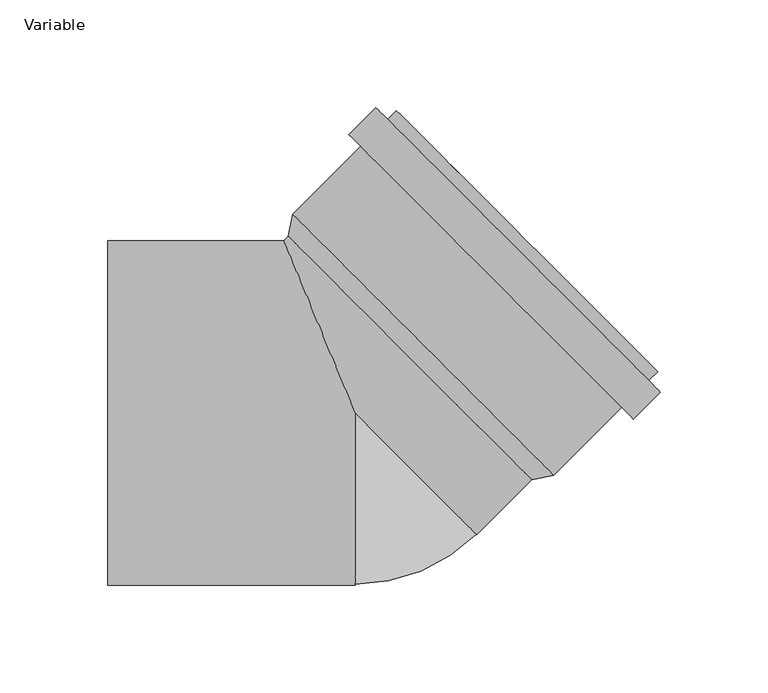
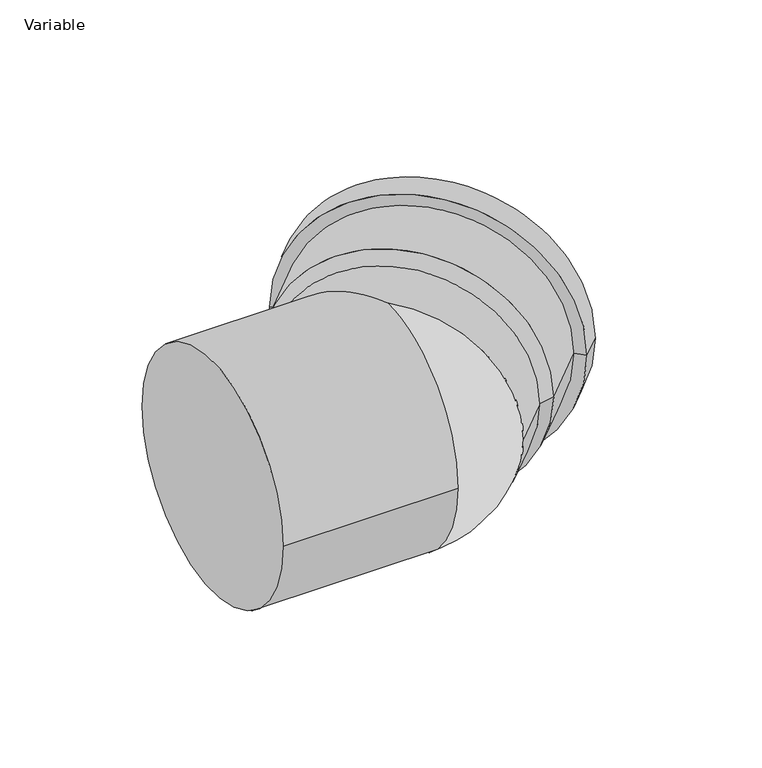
"""IFC4 building model written with IfcOpenShell, lengths in millimetres: pipe fitting geometry, AliaxisFR_Friaphon_ElbowMF_FR : Variable."""

from ifc_helpers import new_model, si_unit, point, frame, origin, place, context, project, spatial, polyline, circle_curve, ellipse_curve, trimmed, source, transform, mapped, element, save
from ifc_brep_helpers import plane_surface, cylinder_surface, revolved_surface, advanced_brep


def variable_feb31056(model_context):
    return source(origin(), model_context, "Body", "AdvancedBrep", [
        advanced_brep(
        [(140.5728281, 19.2333044, 0.0), (19.2333044, 140.5728281, 0.0), (23.3345238, 136.4716088, 0.0), (136.4716088, 23.3345238, 0.0), (129.400541, -2.8284271, 0.0), (-2.8284271, 129.400541, 0.0), (9.6873629, 141.916331, 0.0), (141.916331, 9.6873629, 0.0), (123.9558187, 2.6162951, 0.0), (2.6162951, 123.9558187, 0.0), (92.4188563, -28.9206674, 0.0), (-28.9206674, 92.4188563, 0.0), (-30.971277, 82.165808, 0.0), (82.165808, -30.971277, 0.0), (136.4716088, 15.1320851, 0.0), (15.1320851, 136.4716088, 0.0)],
        [
            (0, 1, circle_curve(frame((79.9030663, 79.9030663, 0.0), z_axis=(0.707106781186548, 0.7071067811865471, 0.0), x_axis=(-0.7071067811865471, 0.707106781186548, 0.0)), 85.8)),
            (1, 2),
            (2, 3, circle_curve(frame((79.9030663, 79.9030663, 0.0), z_axis=(-0.707106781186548, -0.7071067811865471, 0.0), x_axis=(-0.7071067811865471, 0.707106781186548, 0.0)), 80.0)),
            (3, 0),
            (1, 0, circle_curve(frame((79.9030663, 79.9030663, 0.0), z_axis=(0.707106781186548, 0.7071067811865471, 0.0), x_axis=(-0.7071067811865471, 0.707106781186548, 0.0)), 85.8)),
            (3, 2, circle_curve(frame((79.9030663, 79.9030663, 0.0), z_axis=(-0.707106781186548, -0.7071067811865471, 0.0), x_axis=(-0.7071067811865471, 0.707106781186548, 0.0)), 80.0)),
            (4, 5, circle_curve(frame((63.2860569, 63.2860569, 0.0), z_axis=(0.707106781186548, 0.7071067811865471, 0.0), x_axis=(-0.7071067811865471, 0.707106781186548, 0.0)), 93.5)),
            (5, 6),
            (6, 7, circle_curve(frame((75.8018469, 75.8018469, 0.0), z_axis=(-0.707106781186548, -0.7071067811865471, 0.0), x_axis=(-0.7071067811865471, 0.707106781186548, 0.0)), 93.5)),
            (7, 4),
            (5, 4, circle_curve(frame((63.2860569, 63.2860569, 0.0), z_axis=(0.707106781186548, 0.7071067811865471, 0.0), x_axis=(-0.7071067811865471, 0.707106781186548, 0.0)), 93.5)),
            (7, 6, circle_curve(frame((75.8018469, 75.8018469, 0.0), z_axis=(-0.707106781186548, -0.7071067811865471, 0.0), x_axis=(-0.7071067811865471, 0.707106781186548, 0.0)), 93.5)),
            (8, 9, circle_curve(frame((63.2860569, 63.2860569, 0.0), z_axis=(0.707106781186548, 0.7071067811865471, 0.0), x_axis=(-0.7071067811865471, 0.707106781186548, 0.0)), 85.8)),
            (9, 5),
            (4, 8),
            (9, 8, circle_curve(frame((63.2860569, 63.2860569, 0.0), z_axis=(0.707106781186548, 0.7071067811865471, 0.0), x_axis=(-0.7071067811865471, 0.707106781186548, 0.0)), 85.8)),
            (10, 11, circle_curve(frame((31.7490945, 31.7490945, 0.0), z_axis=(0.707106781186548, 0.7071067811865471, 0.0), x_axis=(-0.7071067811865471, 0.707106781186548, 0.0)), 85.8)),
            (11, 9),
            (8, 10),
            (11, 10, circle_curve(frame((31.7490945, 31.7490945, 0.0), z_axis=(0.707106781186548, 0.7071067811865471, 0.0), x_axis=(-0.7071067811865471, 0.707106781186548, 0.0)), 85.8)),
            (2, 12),
            (12, 13, circle_curve(frame((25.5972655, 25.5972655, 0.0), z_axis=(-0.707106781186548, -0.7071067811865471, 0.0), x_axis=(-0.7071067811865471, 0.707106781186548, 0.0)), 80.0)),
            (13, 3),
            (13, 12, circle_curve(frame((25.5972655, 25.5972655, 0.0), z_axis=(-0.707106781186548, -0.7071067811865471, 0.0), x_axis=(-0.7071067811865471, 0.707106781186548, 0.0)), 80.0)),
            (12, 11),
            (10, 13),
            (14, 15, circle_curve(frame((75.8018469, 75.8018469, 0.0), z_axis=(0.707106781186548, 0.7071067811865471, 0.0), x_axis=(-0.7071067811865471, 0.707106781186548, 0.0)), 85.8)),
            (15, 1),
            (0, 14),
            (15, 14, circle_curve(frame((75.8018469, 75.8018469, 0.0), z_axis=(0.707106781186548, 0.7071067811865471, 0.0), x_axis=(-0.7071067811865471, 0.707106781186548, 0.0)), 85.8)),
            (6, 15),
            (14, 7),
        ],
        [
            plane_surface(frame((79.9030663, 79.9030663, 0.0), z_axis=(0.707106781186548, 0.7071067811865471, 0.0), x_axis=(-0.7071067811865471, 0.707106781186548, 0.0))),
            cylinder_surface(frame((25.5972655, 25.5972655, 0.0), z_axis=(-0.707106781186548, -0.7071067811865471, 0.0), x_axis=(-0.7071067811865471, 0.707106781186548, 0.0)), 93.5),
            plane_surface(frame((63.2860569, 63.2860569, 0.0), z_axis=(-0.707106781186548, -0.7071067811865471, 0.0), x_axis=(-0.7071067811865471, 0.707106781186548, 0.0))),
            cylinder_surface(frame((25.5972655, 25.5972655, 0.0), z_axis=(-0.707106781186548, -0.7071067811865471, 0.0), x_axis=(-0.7071067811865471, 0.707106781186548, 0.0)), 85.8),
            revolved_surface(polyline([(-30.971276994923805, 82.16580799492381, 0.0), (23.33452380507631, 136.47160879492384, 0.0)]), (25.5972655, 25.5972655, 0.0), (-0.707106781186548, -0.7071067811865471, 0.0)),
            revolved_surface(polyline([(-28.9206674, 92.4188563, 0.0), (-30.971277, 82.165808, 0.0)]), (25.5972655, 25.5972655, 0.0), (-0.707106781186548, -0.7071067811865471, 0.0)),
            plane_surface(frame((75.8018469, 75.8018469, 0.0), z_axis=(0.707106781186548, 0.7071067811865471, 0.0), x_axis=(-0.7071067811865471, 0.707106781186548, 0.0))),
        ],
        [
            (0, [[1, 2, 3, 4]]),
            (0, [[5, -4, 6, -2]]),
            (1, [[7, 8, 9, 10]]),
            (1, [[11, -10, 12, -8]]),
            (2, [[13, 14, -7, 15]]),
            (2, [[16, -15, -11, -14]]),
            (3, [[17, 18, -13, 19]]),
            (3, [[20, -19, -16, -18]]),
            (4, [[-3, 21, 22, 23]]),
            (4, [[-6, -23, 24, -21]]),
            (5, [[-22, 25, -17, 26]]),
            (5, [[-24, -26, -20, -25]]),
            (3, [[27, 28, -1, 29]]),
            (3, [[30, -29, -5, -28]]),
            (6, [[-9, 31, -27, 32]]),
            (6, [[-12, -32, -30, -31]]),
        ],
    ),
        advanced_brep(
        [(-26.8700577, 86.2670273, 0.0), (86.2670273, -26.8700577, 0.0), (56.5685425, -56.5685425, 0.0), (-33.137085, 80.0, 0.0), (0.0, 0.0, 80.0), (0.0, 0.0, -80.0), (-115.0, -80.0, 0.0), (-115.0, 80.0, 0.0), (0.0, -80.0, 0.0)],
        [
            (0, 1, circle_curve(frame((29.6984848, 29.6984848, 0.0), z_axis=(0.7071067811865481, 0.707106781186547, 0.0), x_axis=(-0.707106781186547, 0.7071067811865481, 0.0)), 80.0)),
            (1, 0, circle_curve(frame((29.6984848, 29.6984848, 0.0), z_axis=(0.7071067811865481, 0.707106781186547, 0.0), x_axis=(-0.707106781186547, 0.7071067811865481, 0.0)), 80.0)),
            (2, 1),
            (0, 3),
            (3, 4, ellipse_curve(frame((0.0, 0.0, 0.0), z_axis=(0.923879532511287, 0.38268343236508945, 0.0), x_axis=(0.38268343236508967, -0.923879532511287, 0.0)), 86.591376, 80.0)),
            (4, 2, circle_curve(frame((0.0, 0.0, 0.0), z_axis=(0.7071067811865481, 0.707106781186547, 0.0), x_axis=(-0.707106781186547, 0.7071067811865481, 0.0)), 80.0)),
            (2, 5, circle_curve(frame((0.0, 0.0, 0.0), z_axis=(0.7071067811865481, 0.707106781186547, 0.0), x_axis=(-0.707106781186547, 0.7071067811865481, 0.0)), 80.0)),
            (5, 3, ellipse_curve(frame((0.0, 0.0, 0.0), z_axis=(0.923879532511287, 0.38268343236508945, 0.0), x_axis=(0.38268343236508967, -0.923879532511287, 0.0)), 86.591376, 80.0)),
            (6, 7, circle_curve(frame((-115.0, 0.0, 0.0), z_axis=(-1.0, 0.0, 0.0), x_axis=(0.0, 1.0, 0.0)), 80.0)),
            (7, 6, circle_curve(frame((-115.0, 0.0, 0.0), z_axis=(-1.0, 0.0, 0.0), x_axis=(0.0, 1.0, 0.0)), 80.0)),
            (6, 8),
            (8, 4, circle_curve(frame((0.0, 0.0, 0.0), z_axis=(-1.0, 0.0, 0.0), x_axis=(0.0, 1.0, 0.0)), 80.0)),
            (3, 7),
            (5, 8, circle_curve(frame((0.0, 0.0, 0.0), z_axis=(-1.0, 0.0, 0.0), x_axis=(0.0, 1.0, 0.0)), 80.0)),
        ],
        [
            plane_surface(frame((29.6984848, 29.6984848, 0.0), z_axis=(0.7071067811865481, 0.707106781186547, 0.0), x_axis=(0.0, 0.0, 1.0))),
            cylinder_surface(frame((0.0, 0.0, 0.0), z_axis=(-0.7071067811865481, -0.707106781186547, 0.0), x_axis=(-0.707106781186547, 0.7071067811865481, 0.0)), 80.0),
            plane_surface(frame((-115.0, 0.0, 0.0), z_axis=(-1.0, 0.0, 0.0), x_axis=(0.0, 0.0, 1.0))),
            cylinder_surface(frame((-115.0, 0.0, 0.0), z_axis=(-1.0, 0.0, 0.0), x_axis=(0.0, 1.0, 0.0)), 80.0),
            revolved_surface(trimmed(ellipse_curve(frame((0.0, 0.0, 0.0), z_axis=(0.7071067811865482, 0.707106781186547, 0.0), x_axis=(-0.707106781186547, 0.7071067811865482, 0.0)), 80.0, 80.0), [point((0.0, 0.0, 80.0))], [point((0.0, 0.0, -80.0))], True, "CARTESIAN"), (0.0, 0.0, 80.0), (0.0, 0.0, -1.0)),
        ],
        [
            (0, [[1, 2]]),
            (1, [[3, -1, 4, 5, 6]]),
            (1, [[-2, -3, 7, 8, -4]]),
            (2, [[9, 10]]),
            (3, [[-9, 11, 12, -5, 13]]),
            (3, [[-10, -13, -8, 14, -11]]),
            (4, [[-12, -14, -7, -6]]),
        ],
    ),
    ])


if __name__ == "__main__":
    model = new_model("IFC4")
    model_context = context("Model", 3, world=origin())
    ifc_project = project(units=[si_unit("LENGTHUNIT", "METRE", prefix="MILLI")], contexts=[model_context])
    site = spatial("IfcSite", under=ifc_project)
    building = spatial("IfcBuilding", under=site)
    placement = place(None, origin())
    variable_shape = variable_feb31056(model_context)
    element("IfcPipeFitting", 1, ObjectType="AliaxisFR_Friaphon_ElbowMF_FR : Variable", at=placement, inside=building, context=model_context, shape_type="MappedRepresentation", body=[
        mapped(variable_shape, transform((0.0, 0.0, 0.0), x_axis=(1.0, 0.0, 0.0), y_axis=(0.0, 1.0, 0.0), z_axis=(0.0, 0.0, 1.0))),
    ])
    save(model, "model.ifc")
